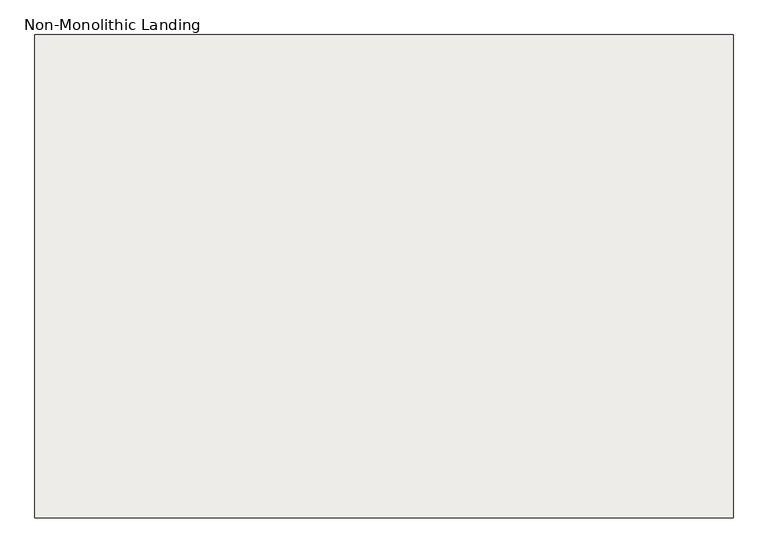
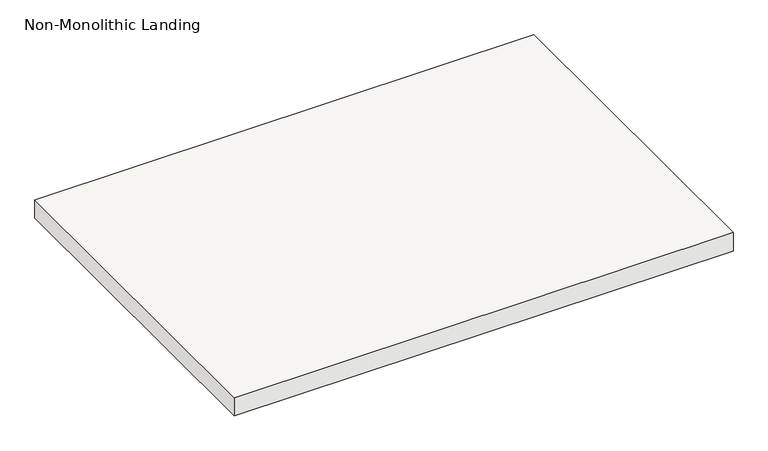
"""IFC4 building model written with IfcOpenShell, lengths in millimetres: slab geometry, Non-Monolithic Landing."""

from ifc_helpers import new_model, si_unit, frame, origin, place, context, project, spatial, polyline, outline, extrude, source, transform, mapped, element, save


def non_monolithic_landing_2ec73fd3(model_context):
    return source(origin(), model_context, "Body", "SweptSolid", [
        extrude(outline(polyline([(138305.2882982, -1515.4986114), (139626.0882982, -1515.4986114), (139626.0882982, -2429.8986114), (138305.2882982, -2429.8986114), (138305.2882982, -1515.4986114)])), frame((0.0, 0.0, 2126.3428571), z_axis=(0.0, 0.0, 1.0), x_axis=(1.0, 0.0, 0.0)), (0.0, 0.0, 1.0), 50.8),
    ])


if __name__ == "__main__":
    model = new_model("IFC4")
    model_context = context("Model", 3, world=origin())
    ifc_project = project(units=[si_unit("LENGTHUNIT", "METRE", prefix="MILLI")], contexts=[model_context])
    site = spatial("IfcSite", under=ifc_project)
    building = spatial("IfcBuilding", under=site)
    placement = place(None, origin())
    non_monolithic_landing_shape = non_monolithic_landing_2ec73fd3(model_context)
    element("IfcSlab", 1, ObjectType="Non-Monolithic Landing", at=placement, inside=building, context=model_context, shape_type="MappedRepresentation", body=[
        mapped(non_monolithic_landing_shape, transform((0.0, 0.0, 0.0), x_axis=(1.0, 0.0, 0.0), y_axis=(0.0, 1.0, 0.0), z_axis=(0.0, 0.0, 1.0))),
    ])
    save(model, "model.ifc")
